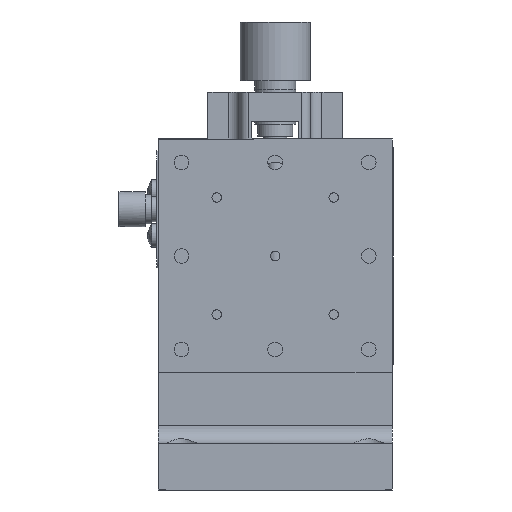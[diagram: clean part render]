
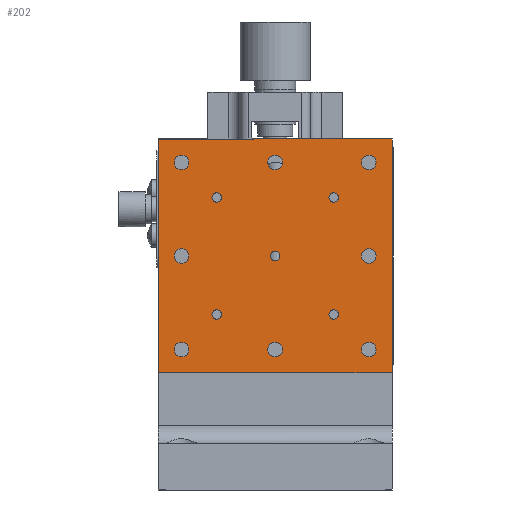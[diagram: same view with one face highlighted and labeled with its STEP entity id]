
A CAD part, front view. The second image highlights one B-rep face of the part: STEP entity #202.
In plain terms, the highlighted planar face has unit normal (0, -1, 0).
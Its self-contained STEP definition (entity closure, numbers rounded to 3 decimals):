
#202 = ADVANCED_FACE( '', ( #448, #449, #450, #451, #452, #453, #454, #455, #456, #457, #458, #459, #460, #461 ), #462, .T. );
#448 = FACE_BOUND( '', #971, .T. );
#449 = FACE_BOUND( '', #972, .T. );
#450 = FACE_BOUND( '', #973, .T. );
#451 = FACE_BOUND( '', #974, .T. );
#452 = FACE_BOUND( '', #975, .T. );
#453 = FACE_BOUND( '', #976, .T. );
#454 = FACE_BOUND( '', #977, .T. );
#455 = FACE_BOUND( '', #978, .T. );
#456 = FACE_BOUND( '', #979, .T. );
#457 = FACE_BOUND( '', #980, .T. );
#458 = FACE_BOUND( '', #981, .T. );
#459 = FACE_BOUND( '', #982, .T. );
#460 = FACE_BOUND( '', #983, .T. );
#461 = FACE_OUTER_BOUND( '', #984, .T. );
#462 = PLANE( '', #985 );
#971 = EDGE_LOOP( '', ( #1648 ) );
#972 = EDGE_LOOP( '', ( #1649 ) );
#973 = EDGE_LOOP( '', ( #1650 ) );
#974 = EDGE_LOOP( '', ( #1651 ) );
#975 = EDGE_LOOP( '', ( #1652 ) );
#976 = EDGE_LOOP( '', ( #1653 ) );
#977 = EDGE_LOOP( '', ( #1654 ) );
#978 = EDGE_LOOP( '', ( #1655 ) );
#979 = EDGE_LOOP( '', ( #1656 ) );
#980 = EDGE_LOOP( '', ( #1657 ) );
#981 = EDGE_LOOP( '', ( #1658 ) );
#982 = EDGE_LOOP( '', ( #1659 ) );
#983 = EDGE_LOOP( '', ( #1660 ) );
#984 = EDGE_LOOP( '', ( #1661, #1662, #1663, #1664 ) );
#985 = AXIS2_PLACEMENT_3D( '', #1665, #1666, #1667 );
#1648 = ORIENTED_EDGE( '', *, *, #2929, .T. );
#1649 = ORIENTED_EDGE( '', *, *, #2930, .T. );
#1650 = ORIENTED_EDGE( '', *, *, #2931, .T. );
#1651 = ORIENTED_EDGE( '', *, *, #2932, .T. );
#1652 = ORIENTED_EDGE( '', *, *, #2933, .T. );
#1653 = ORIENTED_EDGE( '', *, *, #2934, .T. );
#1654 = ORIENTED_EDGE( '', *, *, #2935, .T. );
#1655 = ORIENTED_EDGE( '', *, *, #2936, .T. );
#1656 = ORIENTED_EDGE( '', *, *, #2937, .T. );
#1657 = ORIENTED_EDGE( '', *, *, #2938, .T. );
#1658 = ORIENTED_EDGE( '', *, *, #2939, .T. );
#1659 = ORIENTED_EDGE( '', *, *, #2940, .T. );
#1660 = ORIENTED_EDGE( '', *, *, #2941, .T. );
#1661 = ORIENTED_EDGE( '', *, *, #2927, .F. );
#1662 = ORIENTED_EDGE( '', *, *, #2942, .F. );
#1663 = ORIENTED_EDGE( '', *, *, #2943, .F. );
#1664 = ORIENTED_EDGE( '', *, *, #2944, .F. );
#1665 = CARTESIAN_POINT( '', ( 0., -11., 40. ) );
#1666 = DIRECTION( '', ( 0., -1., 0. ) );
#1667 = DIRECTION( '', ( 0., 0., 1. ) );
#2927 = EDGE_CURVE( '', #3445, #3447, #3448, .T. );
#2929 = EDGE_CURVE( '', #3450, #3450, #3451, .T. );
#2930 = EDGE_CURVE( '', #3452, #3452, #3453, .T. );
#2931 = EDGE_CURVE( '', #3454, #3454, #3455, .T. );
#2932 = EDGE_CURVE( '', #3456, #3456, #3457, .T. );
#2933 = EDGE_CURVE( '', #3458, #3458, #3459, .T. );
#2934 = EDGE_CURVE( '', #3460, #3460, #3461, .T. );
#2935 = EDGE_CURVE( '', #3462, #3462, #3463, .T. );
#2936 = EDGE_CURVE( '', #3464, #3464, #3465, .T. );
#2937 = EDGE_CURVE( '', #3466, #3466, #3467, .T. );
#2938 = EDGE_CURVE( '', #3468, #3468, #3469, .T. );
#2939 = EDGE_CURVE( '', #3470, #3470, #3471, .T. );
#2940 = EDGE_CURVE( '', #3472, #3472, #3473, .T. );
#2941 = EDGE_CURVE( '', #3474, #3474, #3475, .T. );
#2942 = EDGE_CURVE( '', #3476, #3445, #3477, .T. );
#2943 = EDGE_CURVE( '', #3478, #3476, #3479, .T. );
#2944 = EDGE_CURVE( '', #3447, #3478, #3480, .T. );
#3445 = VERTEX_POINT( '', #4323 );
#3447 = VERTEX_POINT( '', #4326 );
#3448 = LINE( '', #4327, #4328 );
#3450 = VERTEX_POINT( '', #4331 );
#3451 = CIRCLE( '', #4332, 0.8 );
#3452 = VERTEX_POINT( '', #4333 );
#3453 = CIRCLE( '', #4334, 0.8 );
#3454 = VERTEX_POINT( '', #4335 );
#3455 = CIRCLE( '', #4336, 0.8 );
#3456 = VERTEX_POINT( '', #4337 );
#3457 = CIRCLE( '', #4338, 0.8 );
#3458 = VERTEX_POINT( '', #4339 );
#3459 = CIRCLE( '', #4340, 0.8 );
#3460 = VERTEX_POINT( '', #4341 );
#3461 = CIRCLE( '', #4342, 1.25 );
#3462 = VERTEX_POINT( '', #4343 );
#3463 = CIRCLE( '', #4344, 1.25 );
#3464 = VERTEX_POINT( '', #4345 );
#3465 = CIRCLE( '', #4346, 1.25 );
#3466 = VERTEX_POINT( '', #4347 );
#3467 = CIRCLE( '', #4348, 1.25 );
#3468 = VERTEX_POINT( '', #4349 );
#3469 = CIRCLE( '', #4350, 1.25 );
#3470 = VERTEX_POINT( '', #4351 );
#3471 = CIRCLE( '', #4352, 1.25 );
#3472 = VERTEX_POINT( '', #4353 );
#3473 = CIRCLE( '', #4354, 1.25 );
#3474 = VERTEX_POINT( '', #4355 );
#3475 = CIRCLE( '', #4356, 1.25 );
#3476 = VERTEX_POINT( '', #4357 );
#3477 = LINE( '', #4358, #4359 );
#3478 = VERTEX_POINT( '', #4360 );
#3479 = LINE( '', #4361, #4362 );
#3480 = LINE( '', #4363, #4364 );
#4323 = CARTESIAN_POINT( '', ( 20., -11., 60. ) );
#4326 = CARTESIAN_POINT( '', ( 20., -11., 20. ) );
#4327 = CARTESIAN_POINT( '', ( 20., -11., 40. ) );
#4328 = VECTOR( '', #5520, 1000. );
#4331 = CARTESIAN_POINT( '', ( 0.8, -11., 40. ) );
#4332 = AXIS2_PLACEMENT_3D( '', #5522, #5523, #5524 );
#4333 = CARTESIAN_POINT( '', ( -9.2, -11., 30. ) );
#4334 = AXIS2_PLACEMENT_3D( '', #5525, #5526, #5527 );
#4335 = CARTESIAN_POINT( '', ( -9.2, -11., 50. ) );
#4336 = AXIS2_PLACEMENT_3D( '', #5528, #5529, #5530 );
#4337 = CARTESIAN_POINT( '', ( 10.8, -11., 50. ) );
#4338 = AXIS2_PLACEMENT_3D( '', #5531, #5532, #5533 );
#4339 = CARTESIAN_POINT( '', ( 10.8, -11., 30. ) );
#4340 = AXIS2_PLACEMENT_3D( '', #5534, #5535, #5536 );
#4341 = CARTESIAN_POINT( '', ( 1.25, -11., 24. ) );
#4342 = AXIS2_PLACEMENT_3D( '', #5537, #5538, #5539 );
#4343 = CARTESIAN_POINT( '', ( -14.75, -11., 24. ) );
#4344 = AXIS2_PLACEMENT_3D( '', #5540, #5541, #5542 );
#4345 = CARTESIAN_POINT( '', ( -14.75, -11., 40. ) );
#4346 = AXIS2_PLACEMENT_3D( '', #5543, #5544, #5545 );
#4347 = CARTESIAN_POINT( '', ( -14.75, -11., 56. ) );
#4348 = AXIS2_PLACEMENT_3D( '', #5546, #5547, #5548 );
#4349 = CARTESIAN_POINT( '', ( 1.25, -11., 56. ) );
#4350 = AXIS2_PLACEMENT_3D( '', #5549, #5550, #5551 );
#4351 = CARTESIAN_POINT( '', ( 17.25, -11., 56. ) );
#4352 = AXIS2_PLACEMENT_3D( '', #5552, #5553, #5554 );
#4353 = CARTESIAN_POINT( '', ( 17.25, -11., 40. ) );
#4354 = AXIS2_PLACEMENT_3D( '', #5555, #5556, #5557 );
#4355 = CARTESIAN_POINT( '', ( 17.25, -11., 24. ) );
#4356 = AXIS2_PLACEMENT_3D( '', #5558, #5559, #5560 );
#4357 = CARTESIAN_POINT( '', ( -20., -11., 60. ) );
#4358 = CARTESIAN_POINT( '', ( 0., -11., 60. ) );
#4359 = VECTOR( '', #5561, 1000. );
#4360 = CARTESIAN_POINT( '', ( -20., -11., 20. ) );
#4361 = CARTESIAN_POINT( '', ( -20., -11., 40. ) );
#4362 = VECTOR( '', #5562, 1000. );
#4363 = CARTESIAN_POINT( '', ( 0., -11., 20. ) );
#4364 = VECTOR( '', #5563, 1000. );
#5520 = DIRECTION( '', ( 0., 0., -1. ) );
#5522 = CARTESIAN_POINT( '', ( 0., -11., 40. ) );
#5523 = DIRECTION( '', ( 0., 1., 0. ) );
#5524 = DIRECTION( '', ( 1., 0., 0. ) );
#5525 = CARTESIAN_POINT( '', ( -10., -11., 30. ) );
#5526 = DIRECTION( '', ( 0., 1., 0. ) );
#5527 = DIRECTION( '', ( 1., 0., 0. ) );
#5528 = CARTESIAN_POINT( '', ( -10., -11., 50. ) );
#5529 = DIRECTION( '', ( 0., 1., 0. ) );
#5530 = DIRECTION( '', ( 1., 0., 0. ) );
#5531 = CARTESIAN_POINT( '', ( 10., -11., 50. ) );
#5532 = DIRECTION( '', ( 0., 1., 0. ) );
#5533 = DIRECTION( '', ( 1., 0., 0. ) );
#5534 = CARTESIAN_POINT( '', ( 10., -11., 30. ) );
#5535 = DIRECTION( '', ( 0., 1., 0. ) );
#5536 = DIRECTION( '', ( 1., 0., 0. ) );
#5537 = CARTESIAN_POINT( '', ( 0., -11., 24. ) );
#5538 = DIRECTION( '', ( 0., 1., 0. ) );
#5539 = DIRECTION( '', ( 1., 0., 0. ) );
#5540 = CARTESIAN_POINT( '', ( -16., -11., 24. ) );
#5541 = DIRECTION( '', ( 0., 1., 0. ) );
#5542 = DIRECTION( '', ( 1., 0., 0. ) );
#5543 = CARTESIAN_POINT( '', ( -16., -11., 40. ) );
#5544 = DIRECTION( '', ( 0., 1., 0. ) );
#5545 = DIRECTION( '', ( 1., 0., 0. ) );
#5546 = CARTESIAN_POINT( '', ( -16., -11., 56. ) );
#5547 = DIRECTION( '', ( 0., 1., 0. ) );
#5548 = DIRECTION( '', ( 1., 0., 0. ) );
#5549 = CARTESIAN_POINT( '', ( 0., -11., 56. ) );
#5550 = DIRECTION( '', ( 0., 1., 0. ) );
#5551 = DIRECTION( '', ( 1., 0., 0. ) );
#5552 = CARTESIAN_POINT( '', ( 16., -11., 56. ) );
#5553 = DIRECTION( '', ( 0., 1., 0. ) );
#5554 = DIRECTION( '', ( 1., 0., 0. ) );
#5555 = CARTESIAN_POINT( '', ( 16., -11., 40. ) );
#5556 = DIRECTION( '', ( 0., 1., 0. ) );
#5557 = DIRECTION( '', ( 1., 0., 0. ) );
#5558 = CARTESIAN_POINT( '', ( 16., -11., 24. ) );
#5559 = DIRECTION( '', ( 0., 1., 0. ) );
#5560 = DIRECTION( '', ( 1., 0., 0. ) );
#5561 = DIRECTION( '', ( 1., 0., 0. ) );
#5562 = DIRECTION( '', ( 0., 0., 1. ) );
#5563 = DIRECTION( '', ( -1., 0., 0. ) );
